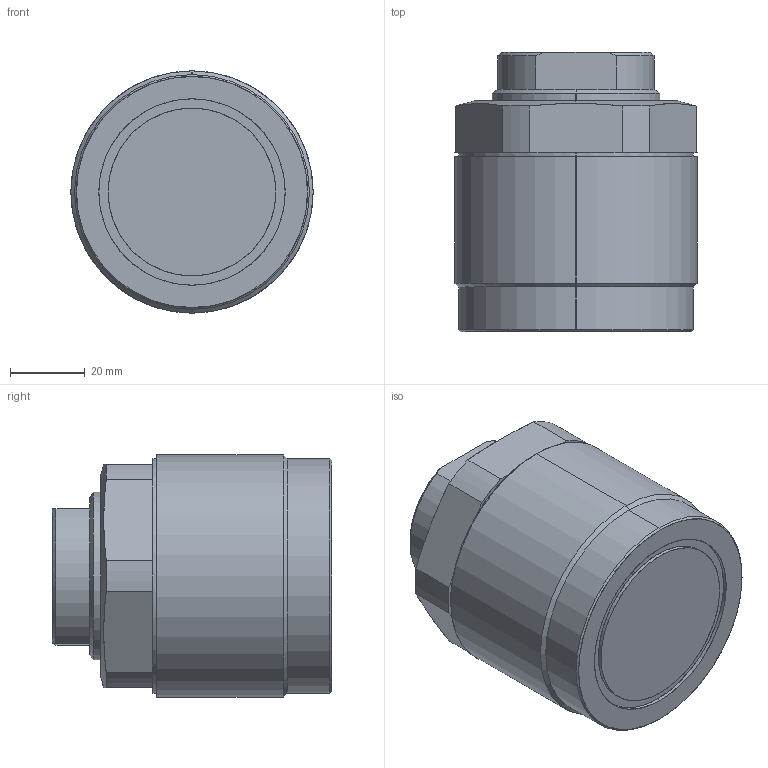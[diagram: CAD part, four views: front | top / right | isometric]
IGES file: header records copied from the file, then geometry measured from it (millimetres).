
Start section: SolidWorks IGES file using analytic representation for surfaces
Global section: file name: D:\karuppas\Clasp\3D model\Thread body cylinder\T03C-M657-S threaded pusher\T03C-M657-S threaded pusher.IGS; native system: SolidWorks 2017; preprocessor: SolidWorks 2017; author: pc; date: 220709.231735; units: millimetre
Bounding box: 65 x 75 x 65 mm (x, y, z)
Surface area: 29193.9 mm2 (no closed solid volume)
Topology: 0 solids, 0 shells, 259 faces, 3529 edges, 3527 vertices
Faces by surface type: bspline 223, revolution 36
